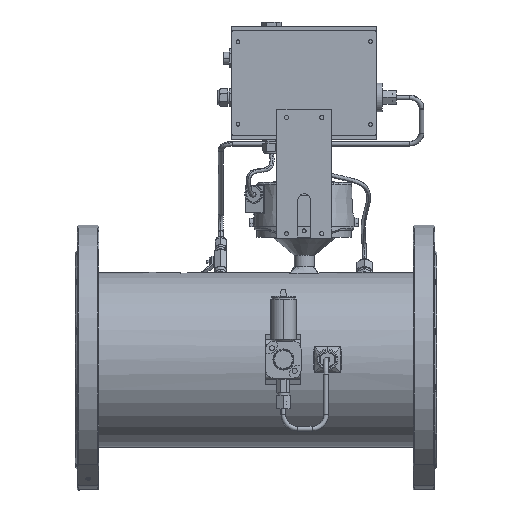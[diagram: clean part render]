
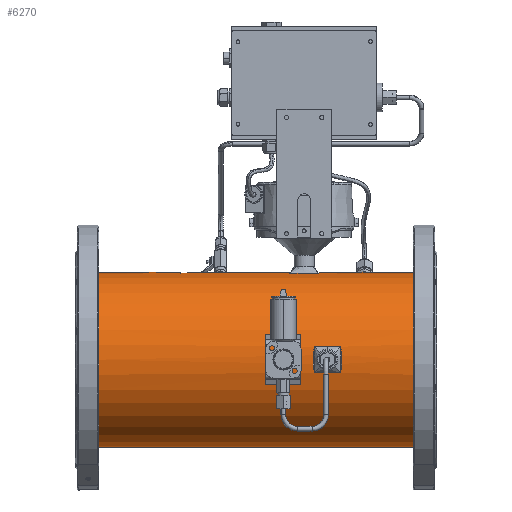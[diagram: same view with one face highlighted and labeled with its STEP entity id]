
A CAD part, top view. The second image highlights one B-rep face of the part: STEP entity #6270.
In plain terms, the highlighted cylindrical face has radius 108.7 mm (diameter 217.4 mm), a partial arc.
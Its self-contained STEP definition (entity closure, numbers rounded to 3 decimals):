
#5127=CARTESIAN_POINT('',(290.5,16.107,107.5));
#5128=CARTESIAN_POINT('',(288.891,5.369,109.109));
#5129=CARTESIAN_POINT('',(288.891,-5.369,109.109));
#5130=CARTESIAN_POINT('',(290.5,-16.107,107.5));
#5135=DIRECTION('',(1.,0.,0.));
#5136=VECTOR('',#5135,33.);
#5137=CARTESIAN_POINT('',(290.5,-16.107,107.5));
#5138=LINE('',#5137,#5136);
#5142=CARTESIAN_POINT('',(323.5,-16.107,107.5));
#5143=CARTESIAN_POINT('',(325.109,-5.369,109.109));
#5144=CARTESIAN_POINT('',(325.109,5.369,109.109));
#5145=CARTESIAN_POINT('',(323.5,16.107,107.5));
#5150=DIRECTION('',(1.,0.,0.));
#5151=VECTOR('',#5150,33.);
#5152=CARTESIAN_POINT('',(290.5,16.107,107.5));
#5153=LINE('',#5152,#5151);
#5157=CARTESIAN_POINT('',(258.8,108.7,0.));
#5158=CARTESIAN_POINT('',(258.8,108.7,5.428));
#5159=CARTESIAN_POINT('',(259.204,108.296,10.797));
#5160=CARTESIAN_POINT('',(260.,107.5,16.107));
#5165=DIRECTION('',(1.,0.,0.));
#5166=VECTOR('',#5165,36.);
#5167=CARTESIAN_POINT('',(260.,107.5,16.107));
#5168=LINE('',#5167,#5166);
#5172=CARTESIAN_POINT('',(297.2,108.7,0.));
#5173=CARTESIAN_POINT('',(297.2,108.7,5.428));
#5174=CARTESIAN_POINT('',(296.796,108.296,10.797));
#5175=CARTESIAN_POINT('',(296.,107.5,16.107));
#5180=CARTESIAN_POINT('',(414.,0.,0.));
#5181=DIRECTION('',(1.,0.,0.));
#5182=DIRECTION('',(0.,1.,0.));
#5183=AXIS2_PLACEMENT_3D('',#5180,#5181,#5182);
#5188=CARTESIAN_POINT('',(21.5,0.,0.));
#5189=DIRECTION('',(1.,0.,0.));
#5190=DIRECTION('',(0.,1.,0.));
#5191=AXIS2_PLACEMENT_3D('',#5188,#5189,#5190);
#5196=CARTESIAN_POINT('',(93.86,0.,0.));
#5197=DIRECTION('',(1.,0.,0.));
#5198=DIRECTION('',(0.,1.,0.));
#5199=AXIS2_PLACEMENT_3D('',#5196,#5197,#5198);
#5204=DIRECTION('',(1.,0.,0.));
#5205=VECTOR('',#5204,30.);
#5206=CARTESIAN_POINT('',(93.86,108.585,5.));
#5207=LINE('',#5206,#5205);
#5211=CARTESIAN_POINT('',(123.86,0.,0.));
#5212=DIRECTION('',(1.,0.,0.));
#5213=DIRECTION('',(0.,0.999,0.046));
#5214=AXIS2_PLACEMENT_3D('',#5211,#5212,#5213);
#5219=CARTESIAN_POINT('',(149.087,108.7,0.));
#5220=CARTESIAN_POINT('',(140.668,108.7,4.861));
#5221=CARTESIAN_POINT('',(132.259,108.375,9.716));
#5222=CARTESIAN_POINT('',(123.86,107.72,14.565));
#5413=DIRECTION('',(-1.,0.,0.));
#5414=VECTOR('',#5413,109.713);
#5415=CARTESIAN_POINT('',(258.8,108.7,0.));
#5416=LINE('',#5415,#5414);
#5451=DIRECTION('',(-1.,0.,0.));
#5452=VECTOR('',#5451,72.36);
#5453=CARTESIAN_POINT('',(93.86,108.7,0.));
#5454=LINE('',#5453,#5452);
#5466=DIRECTION('',(-1.,0.,0.));
#5467=VECTOR('',#5466,392.5);
#5468=CARTESIAN_POINT('',(414.,-108.7,0.));
#5469=LINE('',#5468,#5467);
#5481=DIRECTION('',(-1.,0.,0.));
#5482=VECTOR('',#5481,116.8);
#5483=CARTESIAN_POINT('',(414.,108.7,0.));
#5484=LINE('',#5483,#5482);
#6015=CARTESIAN_POINT('',(414.,108.7,0.));
#6016=CARTESIAN_POINT('',(414.,-108.7,0.));
#6017=VERTEX_POINT('',#6015);
#6018=VERTEX_POINT('',#6016);
#6019=VERTEX_POINT('',#5157);
#6020=VERTEX_POINT('',#5160);
#6021=CARTESIAN_POINT('',(296.,107.5,16.107));
#6022=VERTEX_POINT('',#6021);
#6023=VERTEX_POINT('',#5172);
#6047=VERTEX_POINT('',#5127);
#6048=VERTEX_POINT('',#5130);
#6049=VERTEX_POINT('',#5142);
#6050=VERTEX_POINT('',#5145);
#6055=CARTESIAN_POINT('',(21.5,108.7,0.));
#6056=CARTESIAN_POINT('',(21.5,-108.7,0.));
#6057=VERTEX_POINT('',#6055);
#6058=VERTEX_POINT('',#6056);
#6109=CARTESIAN_POINT('',(149.087,108.7,0.));
#6110=VERTEX_POINT('',#6109);
#6111=CARTESIAN_POINT('',(93.86,108.7,0.));
#6112=VERTEX_POINT('',#6111);
#6127=CARTESIAN_POINT('',(93.86,108.585,5.));
#6128=VERTEX_POINT('',#6127);
#6129=CARTESIAN_POINT('',(123.86,108.585,5.));
#6130=VERTEX_POINT('',#6129);
#6131=CARTESIAN_POINT('',(123.86,107.72,14.565));
#6132=VERTEX_POINT('',#6131);
#6228=CARTESIAN_POINT('',(-21.85,0.,0.));
#6229=DIRECTION('',(1.,0.,0.));
#6230=DIRECTION('',(0.,-1.,0.));
#6231=AXIS2_PLACEMENT_3D('',#6228,#6229,#6230);
#6232=CYLINDRICAL_SURFACE('',#6231,108.7);
#6234=ORIENTED_EDGE('',*,*,#6233,.F.);
#6236=ORIENTED_EDGE('',*,*,#6235,.T.);
#6238=ORIENTED_EDGE('',*,*,#6237,.T.);
#6240=ORIENTED_EDGE('',*,*,#6239,.F.);
#6242=ORIENTED_EDGE('',*,*,#6241,.F.);
#6243=ORIENTED_EDGE('',*,*,#6210,.T.);
#6245=ORIENTED_EDGE('',*,*,#6244,.T.);
#6247=ORIENTED_EDGE('',*,*,#6246,.F.);
#6249=ORIENTED_EDGE('',*,*,#6248,.F.);
#6251=ORIENTED_EDGE('',*,*,#6250,.T.);
#6253=ORIENTED_EDGE('',*,*,#6252,.T.);
#6255=ORIENTED_EDGE('',*,*,#6254,.T.);
#6257=ORIENTED_EDGE('',*,*,#6256,.F.);
#6258=EDGE_LOOP('',(#6234,#6236,#6238,#6240,#6242,#6243,#6245,#6247,#6249,#6251,
#6253,#6255,#6257));
#6259=FACE_OUTER_BOUND('',#6258,.F.);
#6261=ORIENTED_EDGE('',*,*,#6260,.T.);
#6263=ORIENTED_EDGE('',*,*,#6262,.T.);
#6265=ORIENTED_EDGE('',*,*,#6264,.T.);
#6267=ORIENTED_EDGE('',*,*,#6266,.F.);
#6268=EDGE_LOOP('',(#6261,#6263,#6265,#6267));
#6269=FACE_BOUND('',#6268,.F.);
#5131=B_SPLINE_CURVE_WITH_KNOTS('',3,(#5127,#5128,#5129,#5130),.UNSPECIFIED.,
.F.,.F.,(4,4),(0.,1.),.UNSPECIFIED.);
#5146=B_SPLINE_CURVE_WITH_KNOTS('',3,(#5142,#5143,#5144,#5145),.UNSPECIFIED.,
.F.,.F.,(4,4),(0.,1.),.UNSPECIFIED.);
#5161=B_SPLINE_CURVE_WITH_KNOTS('',3,(#5157,#5158,#5159,#5160),.UNSPECIFIED.,
.F.,.F.,(4,4),(0.,1.),.UNSPECIFIED.);
#5176=B_SPLINE_CURVE_WITH_KNOTS('',3,(#5172,#5173,#5174,#5175),.UNSPECIFIED.,
.F.,.F.,(4,4),(0.,1.),.UNSPECIFIED.);
#5184=CIRCLE('',#5183,108.7);
#5192=CIRCLE('',#5191,108.7);
#5200=CIRCLE('',#5199,108.7);
#5215=CIRCLE('',#5214,108.7);
#5223=B_SPLINE_CURVE_WITH_KNOTS('',3,(#5219,#5220,#5221,#5222),.UNSPECIFIED.,
.F.,.F.,(4,4),(0.,1.),.UNSPECIFIED.);
#6210=EDGE_CURVE('',#6017,#6018,#5184,.T.);
#6233=EDGE_CURVE('',#6019,#6110,#5416,.T.);
#6235=EDGE_CURVE('',#6019,#6020,#5161,.T.);
#6237=EDGE_CURVE('',#6020,#6022,#5168,.T.);
#6239=EDGE_CURVE('',#6023,#6022,#5176,.T.);
#6241=EDGE_CURVE('',#6017,#6023,#5484,.T.);
#6244=EDGE_CURVE('',#6018,#6058,#5469,.T.);
#6246=EDGE_CURVE('',#6057,#6058,#5192,.T.);
#6248=EDGE_CURVE('',#6112,#6057,#5454,.T.);
#6250=EDGE_CURVE('',#6112,#6128,#5200,.T.);
#6252=EDGE_CURVE('',#6128,#6130,#5207,.T.);
#6254=EDGE_CURVE('',#6130,#6132,#5215,.T.);
#6256=EDGE_CURVE('',#6110,#6132,#5223,.T.);
#6260=EDGE_CURVE('',#6047,#6048,#5131,.T.);
#6262=EDGE_CURVE('',#6048,#6049,#5138,.T.);
#6264=EDGE_CURVE('',#6049,#6050,#5146,.T.);
#6266=EDGE_CURVE('',#6047,#6050,#5153,.T.);
#6270=ADVANCED_FACE('',(#6259,#6269),#6232,.T.);
